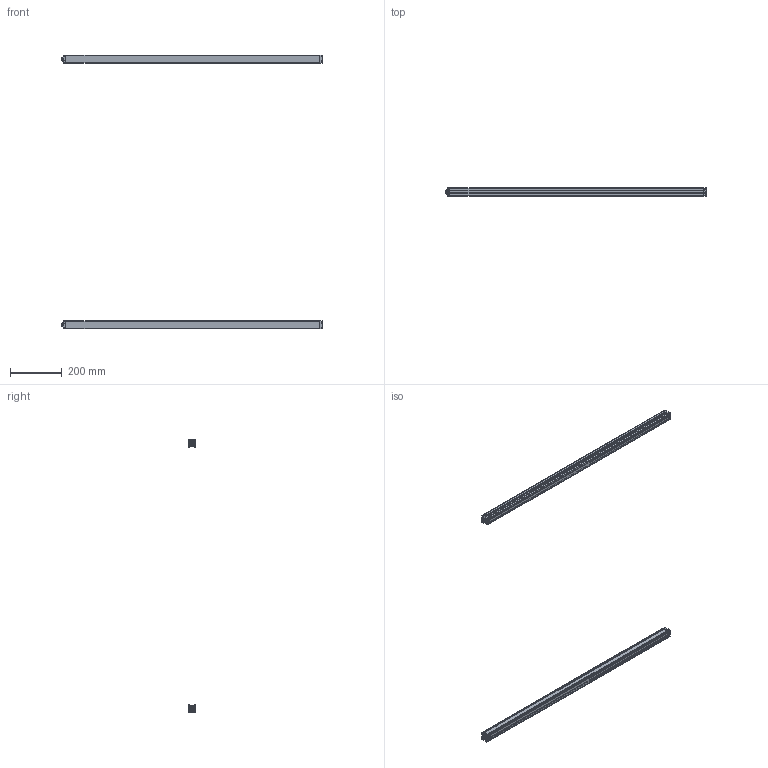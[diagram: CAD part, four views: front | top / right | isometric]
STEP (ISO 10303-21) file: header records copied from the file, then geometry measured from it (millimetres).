
FILE_DESCRIPTION((''),'2;1');
FILE_NAME('THW_ASM','2019-05-20T',('Administrator'),(''),'PRO/ENGINEER BY PARAMETRIC TECHNOLOGY CORPORATION, 2002180','PRO/ENGINEER BY PARAMETRIC TECHNOLOGY CORPORATION, 2002180','');
FILE_SCHEMA(('CONFIG_CONTROL_DESIGN'));
Length unit declared in the file: millimetre
Products named in the file (10): 11; 101; 102; 13; 12; 14; 16; ASM0002_ASM; 0000_ASM; THW_ASM
Assembly tree (10 placements, depth 4):
  THW_ASM
    0000_ASM  x2
      11
      101
      102
      13
      12
      ASM0002_ASM
        14
        16
Bounding box: 1012 x 30.3 x 1058.6 mm (x, y, z)
Volume: 616905.4 mm3; surface area: 669885.3 mm2
Topology: 10 solids, 14 shells, 1080 faces, 3010 edges, 1986 vertices
Faces by surface type: plane 764, cylinder 288, cone 28
Entity records: 17771 total; most frequent: CARTESIAN_POINT 3380, ORIENTED_EDGE 3006, DIRECTION 2885, EDGE_CURVE 1505, VECTOR 1177, LINE 1177, VERTEX_POINT 993, AXIS2_PLACEMENT_3D 854
